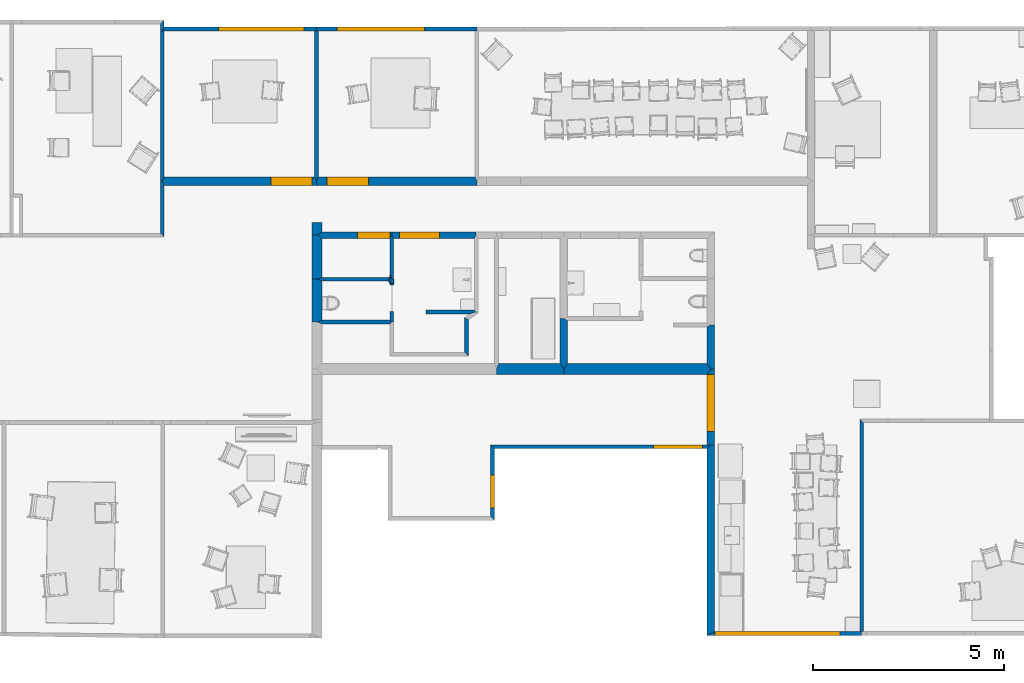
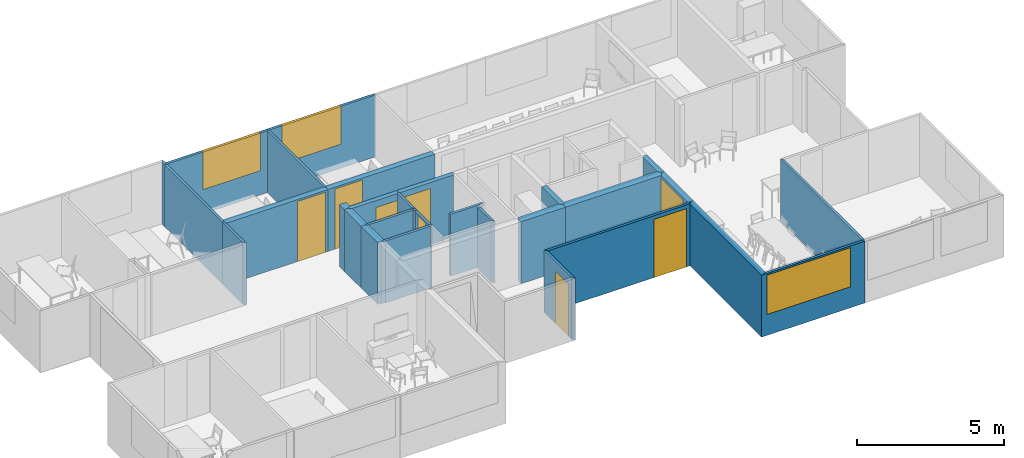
# One storey, part 3 of 26: 31 walls, 7 doors, 3 windows, 11 openings.
"""IFC2X3 building model written with IfcOpenShell, lengths in metres."""

from ifc_helpers import new_model, si_unit, direction, frame, origin_with_axes, place, context, subcontext, project, spatial, polyline, outline, extrude, type_object, element, fill, save


model = new_model("IFC2X3")

# Units and contexts
model_context = context("Model", 3, precision=1e-05, world=origin_with_axes(), true_north=direction((0.996, -0.093, 0.0)))
body_context = subcontext(model_context, "Body", "Model", "MODEL_VIEW")
ifc_project = project(units=[si_unit("AREAUNIT", "SQUARE_METRE"), si_unit("LENGTHUNIT", "METRE")], contexts=[model_context])

# Site, building, storey
site_placement = place(None, origin_with_axes())
site = spatial("IfcSite", under=ifc_project, at=site_placement, Name="Site", CompositionType="ELEMENT")
building_placement = place(site_placement, origin_with_axes())
building = spatial("IfcBuilding", under=site, at=building_placement, Name="Building", CompositionType="ELEMENT")
storey_placement = place(building_placement, frame((0.0, 0.0, 0.0500001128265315), z_axis=(0.0, 0.0, 1.0), x_axis=(1.0, 0.0, 0.0)))
storey = spatial("IfcBuildingStorey", under=building, at=storey_placement, Name="Story 0", CompositionType="ELEMENT", Elevation=0.0499999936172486)

# Wall, opening, window
wall_type_1 = type_object("IfcWallType", PredefinedType="STANDARD")
wall_1_placement = place(storey_placement, frame((6.05685358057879, 11.0852164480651, 0.0), z_axis=(0.0, 0.0, 1.0), x_axis=(1.0, 0.0, 0.0)))
wall_1 = element("IfcWallStandardCase", 1, at=wall_1_placement, inside=storey, type_object=wall_type_1, Name="Wall", context=body_context, shape_type="SweptSolid", body=[
    extrude(outline(polyline([(0.0, 0.0), (-0.0463823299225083, -1.50883678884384e-08), (0.000229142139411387, 0.0999999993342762), (3.99570325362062, 0.100001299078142), (3.99570328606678, 1.29981840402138e-06), (3.94932095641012, 1.28473004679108e-06), (0.0, 0.0)])), origin_with_axes(), (0.0, 0.0, 1.0), 2.5729394),
])
opening_1_placement = place(wall_1_placement, frame((1.42447395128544, 0.0, 1.01125042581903), z_axis=(0.0, 0.0, 1.0), x_axis=(1.00000000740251, 0.0, 0.0)))
opening_1 = element("IfcOpeningElement", 2, at=opening_1_placement, cuts=wall_1, Name="OpeningElement", ObjectType="OPENING", context=body_context, shape_type="SweptSolid", body=[
    extrude(outline(polyline([(-8.88178419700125e-16, 0.0), (2.2489290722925, 0.0), (2.2489290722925, 1.561688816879), (-8.88178419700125e-16, 1.561688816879), (-8.88178419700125e-16, 0.0)])), frame((0.0, 0.0, 0.0), z_axis=(0.0, -1.0, 0.0), x_axis=(1.0, 0.0, 0.0)), (0.0, 0.0, -1.0), 0.100099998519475),
])
window_style_1 = type_object("IfcWindowStyle", Name="2ed6ac4e-18b1-4cff-920f-c6e0926f687a", ConstructionType="ALUMINIUM", OperationType="SINGLE_PANEL", ParameterTakesPrecedence=True, Sizeable=True)
window_1_placement = place(opening_1_placement, origin_with_axes())
window_1 = element("IfcWindow", 3, at=window_1_placement, inside=storey, type_object=window_style_1, Name="Window", OverallHeight=1.5, OverallWidth=0.5, context=body_context, shape_type="SweptSolid", body=[
    extrude(outline(polyline([(0.0, 0.0), (-2.24892893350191, 0.0), (-2.24892893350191, 1.56168884), (0.0, 1.56168884), (0.0, 0.0)])), frame((0.0, 0.0999999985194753, 0.0), z_axis=(0.0, 1.0, 0.0), x_axis=(-1.0, 0.0, 0.0)), (0.0, 0.0, -1.0), 0.0999999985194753),
])
fill(opening_1, window_1)

# Wall, opening, door
wall_type_2 = type_object("IfcWallType", PredefinedType="STANDARD")
wall_2_placement = place(storey_placement, frame((6.05727693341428, 7.0292834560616, 0.0), z_axis=(0.0, 0.0, 1.0), x_axis=(1.0, 0.0, 0.0)))
wall_2 = element("IfcWallStandardCase", 4, at=wall_2_placement, inside=storey, type_object=wall_type_2, Name="Wall", context=body_context, shape_type="SweptSolid", body=[
    extrude(outline(polyline([(0.0, 0.0), (-0.0463823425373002, 0.114025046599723), (-1.22583095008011e-05, 0.228050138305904), (3.94889842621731, 0.228052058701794), (3.99528078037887, 0.11402701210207), (3.99528083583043, 1.94294616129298e-06), (0.0, 0.0)])), origin_with_axes(), (0.0, 0.0, 1.0), 2.5729394),
])
opening_2_placement = place(wall_2_placement, frame((2.79951417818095, 0.0, 0.0), z_axis=(0.0, 0.0, 1.0), x_axis=(1.00000000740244, 0.0, 0.0)))
opening_2 = element("IfcOpeningElement", 5, at=opening_2_placement, cuts=wall_2, Name="OpeningElement", ObjectType="OPENING", context=body_context, shape_type="SweptSolid", body=[
    extrude(outline(polyline([(0.0, 0.0), (1.08285570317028, 0.0), (1.08285570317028, 2.49675690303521), (0.0, 2.49675690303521), (0.0, 0.0)])), frame((0.0, 0.0, 0.0), z_axis=(0.0, -1.0, 0.0), x_axis=(1.0, 0.0, 0.0)), (0.0, 0.0, -1.0), 0.228150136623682),
])
door_style_1 = type_object("IfcDoorStyle", Name="8c283b40-867c-4ef0-b89c-eb052e4bcd9b", ConstructionType="NOTDEFINED", OperationType="NOTDEFINED", ParameterTakesPrecedence=False, Sizeable=False)
door_1_placement = place(opening_2_placement, origin_with_axes())
door_1 = element("IfcDoor", 6, at=door_1_placement, inside=storey, type_object=door_style_1, Name="Door", OverallHeight=2.49675694, OverallWidth=1.0828566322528, context=body_context, shape_type="SweptSolid", body=[
    extrude(outline(polyline([(-1.77635683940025e-15, 0.0), (-1.08285564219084, 0.0), (-1.08285564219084, 2.49675694), (-1.77635683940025e-15, 2.49675694), (-1.77635683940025e-15, 0.0)])), frame((0.0, 0.228050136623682, 0.0), z_axis=(0.0, 1.0, 0.0), x_axis=(-1.0, 0.0, 0.0)), (0.0, 0.0, -1.0), 0.228050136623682),
])
fill(opening_2, door_1)

# Walls
wall_type_3 = type_object("IfcWallType", PredefinedType="STANDARD")
wall_3_placement = place(storey_placement, frame((10.0061745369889, 11.0852177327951, 0.0), z_axis=(0.0, 0.0, 1.0), x_axis=(1.0, 0.0, 0.0)))
element("IfcWallStandardCase", 7, at=wall_3_placement, inside=storey, type_object=wall_type_3, Name="Wall", context=body_context, shape_type="SweptSolid", body=[
    extrude(outline(polyline([(0.0, 0.0), (0.0463823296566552, 1.50883572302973e-08), (0.0927646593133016, 3.073068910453e-08), (0.0927654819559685, -3.82788218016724), (0.0463831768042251, -3.94190726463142), (8.22642672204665e-07, -3.8278822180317), (0.0, 0.0)])), origin_with_axes(), (0.0, 0.0, 1.0), 2.5729394),
])
wall_type_4 = type_object("IfcWallType", PredefinedType="STANDARD")
wall_4_placement = place(storey_placement, frame((5.96408892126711, 11.085211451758, 0.0), z_axis=(0.0, 0.0, 1.0), x_axis=(1.0, 0.0, 0.0)))
element("IfcWallStandardCase", 8, at=wall_4_placement, inside=storey, type_object=wall_type_4, Name="Wall", context=body_context, shape_type="SweptSolid", body=[
    extrude(outline(polyline([(0.0, 0.0), (0.046382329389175, 4.98121871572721e-06), (0.0927646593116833, 4.99630708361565e-06), (0.0931757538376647, -3.82787785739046), (0.0468056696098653, -3.94190294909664), (0.000423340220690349, -3.94190793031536), (0.0, 0.0)])), origin_with_axes(), (0.0, 0.0, 1.0), 2.5729394),
])
wall_type_5 = type_object("IfcWallType", PredefinedType="STANDARD")
wall_5_placement = place(storey_placement, frame((16.437954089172, 2.3638263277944, 0.0), z_axis=(0.0, 0.0, 1.0), x_axis=(1.0, 0.0, 0.0)))
element("IfcWallStandardCase", 9, at=wall_5_placement, inside=storey, type_object=wall_type_5, Name="Wall", context=body_context, shape_type="SweptSolid", body=[
    extrude(outline(polyline([(0.0, 0.0), (-1.85461018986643e-07, 1.17787432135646), (0.0988194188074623, 1.177874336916), (0.197639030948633, 1.12787441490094), (0.19763920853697, 4.21498862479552e-08), (0.0988196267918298, -0.143047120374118), (0.0, 0.0)])), origin_with_axes(), (0.0, 0.0, 1.0), 2.5729394),
])
wall_type_6 = type_object("IfcWallType", PredefinedType="STANDARD")
wall_6_placement = place(storey_placement, frame((20.2917809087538, 2.36382724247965, 0.0), z_axis=(0.0, 0.0, 1.0), x_axis=(1.0, 0.0, 0.0)))
element("IfcWallStandardCase", 10, at=wall_6_placement, inside=storey, type_object=wall_type_6, Name="Wall", context=body_context, shape_type="SweptSolid", body=[
    extrude(outline(polyline([(0.0, 0.0), (-4.13447462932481e-07, 0.962574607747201), (0.101290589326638, 1.01257452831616), (0.202581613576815, 1.01257457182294), (0.202582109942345, -0.143047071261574), (0.101291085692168, -0.14304711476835), (0.0, 0.0)])), origin_with_axes(), (0.0, 0.0, 1.0), 2.5729394),
])
wall_type_7 = type_object("IfcWallType", PredefinedType="STANDARD")
wall_7_placement = place(storey_placement, frame((16.5367737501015, 2.0777320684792, 0.0), z_axis=(0.0, 0.0, 1.0), x_axis=(1.0, 0.0, 0.0)))
element("IfcWallStandardCase", 11, at=wall_7_placement, inside=storey, type_object=wall_type_7, Name="Wall", context=body_context, shape_type="SweptSolid", body=[
    extrude(outline(polyline([(0.0, 0.0), (-3.41376562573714e-08, 0.14304713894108), (0.0988195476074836, 0.286094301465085), (3.75500715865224, 0.286095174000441), (3.8562982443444, 0.143048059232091), (3.7550072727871, 8.96118290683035e-07), (0.0, 0.0)])), origin_with_axes(), (0.0, 0.0, 1.0), 2.5729394),
])

# Wall, opening, door
wall_type_8 = type_object("IfcWallType", PredefinedType="STANDARD")
wall_8_placement = place(storey_placement, frame((10.2028890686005, 5.6405609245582, 0.0), z_axis=(0.0, 0.0, 1.0), x_axis=(1.0, 0.0, 0.0)))
wall_8 = element("IfcWallStandardCase", 12, at=wall_8_placement, inside=storey, type_object=wall_type_8, Name="Wall", context=body_context, shape_type="SweptSolid", body=[
    extrude(outline(polyline([(0.0, 0.0), (-0.133709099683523, 0.0883233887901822), (-1.25883463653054e-08, 0.176646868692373), (1.82463396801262, 0.176647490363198), (1.82463399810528, 0.0883240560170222), (1.77825168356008, 6.0586792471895e-07), (0.0, 0.0)])), origin_with_axes(), (0.0, 0.0, 1.0), 2.5729394),
])
opening_3_placement = place(wall_8_placement, frame((1.77825162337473, 0.176647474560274, 0.0), z_axis=(0.0, 0.0, 1.0), x_axis=(-1.0000000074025, 0.0, 0.0)))
opening_3 = element("IfcOpeningElement", 13, at=opening_3_placement, cuts=wall_8, Name="OpeningElement", ObjectType="OPENING", context=body_context, shape_type="SweptSolid", body=[
    extrude(outline(polyline([(0.0, 0.0), (0.856390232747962, 0.0), (0.856390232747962, 2.28598296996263), (0.0, 2.28598296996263), (0.0, 0.0)])), frame((0.0, 0.0, 0.0), z_axis=(0.0, -1.0, 0.0), x_axis=(1.0, 0.0, 0.0)), (0.0, 0.0, -1.0), 0.176746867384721),
])
door_style_2 = type_object("IfcDoorStyle", Name="65016129-876d-4786-bd2c-ccfc2ccc8a95", ConstructionType="NOTDEFINED", OperationType="NOTDEFINED", ParameterTakesPrecedence=False, Sizeable=False)
door_2_placement = place(opening_3_placement, origin_with_axes())
door_2 = element("IfcDoor", 14, at=door_2_placement, inside=storey, type_object=door_style_2, Name="Door", OverallHeight=2.28598364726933, OverallWidth=0.902772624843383, context=body_context, shape_type="SweptSolid", body=[
    extrude(outline(polyline([(0.0, 0.0), (-0.856390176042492, 0.0), (-0.856390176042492, 2.28598300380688), (0.0, 2.28598300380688), (0.0, 0.0)])), frame((0.0, 0.176646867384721, 0.0), z_axis=(0.0, 1.0, 0.0), x_axis=(-1.0, 0.0, 0.0)), (0.0, 0.0, -1.0), 0.176646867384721),
])
fill(opening_3, door_2)

# Wall, opening, window
wall_type_9 = type_object("IfcWallType", PredefinedType="STANDARD")
wall_9_placement = place(storey_placement, frame((20.2917828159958, -4.76651428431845, 0.0), z_axis=(0.0, 0.0, 1.0), x_axis=(1.0, 0.0, 0.0)))
wall_9 = element("IfcWallStandardCase", 15, at=wall_9_placement, inside=storey, type_object=wall_type_9, Name="Wall", context=body_context, shape_type="SweptSolid", body=[
    extrude(outline(polyline([(0.0, 0.0), (0.202582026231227, 0.100000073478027), (4.00875737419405, 0.100001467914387), (4.05513970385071, 0.100001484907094), (4.05513973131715, 1.48564735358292e-06), (0.0, 0.0)])), origin_with_axes(), (0.0, 0.0, 1.0), 2.5729394),
])
opening_4_placement = place(wall_9_placement, frame((3.49161362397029, 0.10000127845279, 0.872057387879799), z_axis=(0.0, 0.0, 1.0), x_axis=(-1.00000000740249, 0.0, 0.0)))
opening_4 = element("IfcOpeningElement", 16, at=opening_4_placement, cuts=wall_9, Name="OpeningElement", ObjectType="OPENING", context=body_context, shape_type="SweptSolid", body=[
    extrude(outline(polyline([(0.0, 0.0), (3.27666135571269, 0.0), (3.27666135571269, 1.63146417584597), (0.0, 1.63146417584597), (0.0, 0.0)])), frame((0.0, 0.0, 0.0), z_axis=(0.0, -1.0, 0.0), x_axis=(1.0, 0.0, 0.0)), (0.0, 0.0, -1.0), 0.100099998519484),
])
window_style_2 = type_object("IfcWindowStyle", Name="49b55e48-f6dc-40c0-af08-7e19540d40da", ConstructionType="ALUMINIUM", OperationType="SINGLE_PANEL", ParameterTakesPrecedence=True, Sizeable=True)
window_2_placement = place(opening_4_placement, origin_with_axes())
window_2 = element("IfcWindow", 17, at=window_2_placement, inside=storey, type_object=window_style_2, Name="Window", OverallHeight=1.5, OverallWidth=0.5, context=body_context, shape_type="SweptSolid", body=[
    extrude(outline(polyline([(-3.5527136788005e-15, 0.0), (-3.27666113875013, 0.0), (-3.27666113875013, 1.6314642), (-3.5527136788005e-15, 1.6314642), (-3.5527136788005e-15, 0.0)])), frame((0.0, 0.0999999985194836, 0.0), z_axis=(0.0, 1.0, 0.0), x_axis=(-1.0, 0.0, 0.0)), (0.0, 0.0, -1.0), 0.0999999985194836),
])
fill(opening_4, window_2)

# Wall, opening, door
wall_type_10 = type_object("IfcWallType", PredefinedType="STANDARD")
wall_10_placement = place(storey_placement, frame((20.2917817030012, 0.23140851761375, 0.0), z_axis=(0.0, 0.0, 1.0), x_axis=(1.0, 0.0, 0.0)))
wall_10 = element("IfcWallStandardCase", 18, at=wall_10_placement, inside=storey, type_object=wall_type_10, Name="Wall", context=body_context, shape_type="SweptSolid", body=[
    extrude(outline(polyline([(0.0, 0.0), (-6.80112616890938e-07, 1.84632444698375), (0.101290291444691, 1.98937161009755), (0.202581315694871, 1.98937164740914), (0.202582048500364, 5.59299886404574e-08), (0.10129102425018, 1.86183977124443e-08), (0.0, 0.0)])), origin_with_axes(), (0.0, 0.0, 1.0), 2.5729394),
])
opening_5_placement = place(wall_10_placement, frame((0.202581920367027, 0.347847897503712, 0.0), z_axis=(0.0, 0.0, 1.0), x_axis=(0.0, 1.00000000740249, 0.0)))
opening_5 = element("IfcOpeningElement", 19, at=opening_5_placement, cuts=wall_10, Name="OpeningElement", ObjectType="OPENING", context=body_context, shape_type="SweptSolid", body=[
    extrude(outline(polyline([(-2.32019264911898e-17, 0.0), (1.49847635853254, 0.0), (1.49847635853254, 2.44500200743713), (-2.32019264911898e-17, 2.44500200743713), (-2.32019264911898e-17, 0.0)])), frame((0.0, 0.0, 0.0), z_axis=(0.0, -1.0, 0.0), x_axis=(1.0, 0.0, 0.0)), (0.0, 0.0, -1.0), 0.202682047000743),
])
door_style_3 = type_object("IfcDoorStyle", Name="be08ee88-b715-41a8-818c-6e9878d72d4e", ConstructionType="NOTDEFINED", OperationType="NOTDEFINED", ParameterTakesPrecedence=False, Sizeable=False)
door_3_placement = place(opening_5_placement, origin_with_axes())
door_3 = element("IfcDoor", 20, at=door_3_placement, inside=storey, type_object=door_style_3, Name="Door", OverallHeight=2.44500273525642, OverallWidth=1.5762143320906, context=body_context, shape_type="SweptSolid", body=[
    extrude(outline(polyline([(-1.17059953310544e-18, 0.0), (-1.49847625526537, 0.0), (-1.49847625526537, 2.44500204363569), (-1.17059953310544e-18, 2.44500204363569), (-1.17059953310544e-18, 0.0)])), frame((0.0, 0.202582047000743, 0.0), z_axis=(0.0, 1.0, 0.0), x_axis=(-1.0, 0.0, 0.0)), (0.0, 0.0, -1.0), 0.202582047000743),
])
fill(opening_5, door_3)

# Walls
wall_type_11 = type_object("IfcWallType", PredefinedType="STANDARD")
wall_11_placement = place(storey_placement, frame((9.93547186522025, 4.57248068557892, 0.0), z_axis=(0.0, 0.0, 1.0), x_axis=(1.0, 0.0, 0.0)))
element("IfcWallStandardCase", 21, at=wall_11_placement, inside=storey, type_object=wall_type_11, Name="Wall", context=body_context, shape_type="SweptSolid", body=[
    extrude(outline(polyline([(0.0, 0.0), (-9.25313425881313e-07, 1.15640352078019), (0.133708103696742, 1.15640362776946), (0.267417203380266, 1.06808023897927), (0.267418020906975, 0.0463823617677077), (0.133709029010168, 1.06989263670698e-07), (0.0, 0.0)])), origin_with_axes(), (0.0, 0.0, 1.0), 2.5729394),
])
wall_type_12 = type_object("IfcWallType", PredefinedType="STANDARD")
wall_12_placement = place(storey_placement, frame((9.93547093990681, 5.72888440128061, 0.0), z_axis=(0.0, 0.0, 1.0), x_axis=(1.0, 0.0, 0.0)))
element("IfcWallStandardCase", 22, at=wall_12_placement, inside=storey, type_object=wall_type_12, Name="Wall", context=body_context, shape_type="SweptSolid", body=[
    extrude(outline(polyline([(0.0, 0.0), (2.18148651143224e-07, 0.33171505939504), (0.267418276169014, 0.331714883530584), (0.267418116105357, 0.0883233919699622), (0.133709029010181, -8.79322286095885e-08), (0.0, 0.0)])), origin_with_axes(), (0.0, 0.0, 1.0), 2.5729394),
])
wall_type_13 = type_object("IfcWallType", PredefinedType="STANDARD")
wall_13_placement = place(storey_placement, frame((5.96451226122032, 7.14330849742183, 0.0), z_axis=(0.0, 0.0, 1.0), x_axis=(1.0, 0.0, 0.0)))
element("IfcWallStandardCase", 23, at=wall_13_placement, inside=storey, type_object=wall_type_13, Name="Wall", context=body_context, shape_type="SweptSolid", body=[
    extrude(outline(polyline([(0.0, 0.0), (0.0463823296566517, 5.23950216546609e-09), (0.0927646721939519, -0.114025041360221), (0.0927648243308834, -1.46080685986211), (1.54538575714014e-07, -1.36804221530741), (0.0, 0.0)])), origin_with_axes(), (0.0, 0.0, 1.0), 2.5729394),
])
wall_type_14 = type_object("IfcWallType", PredefinedType="STANDARD")
wall_14_placement = place(storey_placement, frame((9.93547177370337, 3.44895672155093, 0.0), z_axis=(0.0, 0.0, 1.0), x_axis=(1.0, 0.0, 0.0)))
element("IfcWallStandardCase", 24, at=wall_14_placement, inside=storey, type_object=wall_type_14, Name="Wall", context=body_context, shape_type="SweptSolid", body=[
    extrude(outline(polyline([(0.0, 0.0), (9.15168385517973e-08, 1.12352408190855), (0.133709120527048, 1.12352407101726), (0.267418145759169, 1.07714166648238), (0.267418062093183, 0.0500000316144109), (0.133709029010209, -1.0891290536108e-08), (0.0, 0.0)])), origin_with_axes(), (0.0, 0.0, 1.0), 2.5729394),
])
wall_type_15 = type_object("IfcWallType", PredefinedType="STANDARD")
wall_15_placement = place(storey_placement, frame((24.300540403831, 0.904042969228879, 0.0), z_axis=(0.0, 0.0, 1.0), x_axis=(1.0, 0.0, 0.0)))
element("IfcWallStandardCase", 25, at=wall_15_placement, inside=storey, type_object=wall_type_15, Name="Wall", context=body_context, shape_type="SweptSolid", body=[
    extrude(outline(polyline([(0.0, 0.0), (0.0927646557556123, -0.0927646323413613), (0.0927644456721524, -5.57055575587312), (0.0463821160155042, -5.57055576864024), (-2.13641150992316e-07, -5.57055578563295), (0.0, 0.0)])), origin_with_axes(), (0.0, 0.0, 1.0), 2.5729394),
])

# Wall, opening, door
wall_type_16 = type_object("IfcWallType", PredefinedType="STANDARD")
wall_16_placement = place(storey_placement, frame((12.0739054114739, 5.64056155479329, 0.0), z_axis=(0.0, 0.0, 1.0), x_axis=(1.0, 0.0, 0.0)))
wall_16 = element("IfcWallStandardCase", 26, at=wall_16_placement, inside=storey, type_object=wall_type_16, Name="Wall", context=body_context, shape_type="SweptSolid", body=[
    extrude(outline(polyline([(0.0, 0.0), (-0.046382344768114, 0.0883234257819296), (-0.046382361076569, 0.176646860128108), (2.16509380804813, 0.176647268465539), (2.16509382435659, 0.0883238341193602), (2.11509386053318, 3.90540941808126e-07), (0.0, 0.0)])), origin_with_axes(), (0.0, 0.0, 1.0), 2.5729394),
])
opening_6_placement = place(wall_16_placement, frame((1.20209447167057, 0.17664709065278, 0.0), z_axis=(0.0, 0.0, 1.0), x_axis=(-1.00000000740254, 0.0, 0.0)))
opening_6 = element("IfcOpeningElement", 27, at=opening_6_placement, cuts=wall_16, Name="OpeningElement", ObjectType="OPENING", context=body_context, shape_type="SweptSolid", body=[
    extrude(outline(polyline([(0.0, 0.0), (1.05191887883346, 0.0), (1.05191887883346, 2.32814514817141), (0.0, 2.32814514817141), (0.0, 0.0)])), frame((0.0, 0.0, 0.0), z_axis=(0.0, -1.0, 0.0), x_axis=(1.0, 0.0, 0.0)), (0.0, 0.0, -1.0), 0.176746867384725),
])
door_style_4 = type_object("IfcDoorStyle", Name="c0042f84-d375-4604-b68c-7bd32cc742e0", ConstructionType="NOTDEFINED", OperationType="NOTDEFINED", ParameterTakesPrecedence=False, Sizeable=False)
door_4_placement = place(opening_6_placement, origin_with_axes())
door_4 = element("IfcDoor", 28, at=door_4_placement, inside=storey, type_object=door_style_4, Name="Door", OverallHeight=2.32814583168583, OverallWidth=1.05191907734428, context=body_context, shape_type="SweptSolid", body=[
    extrude(outline(polyline([(0.0, 0.0), (-1.05191880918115, 0.0), (-1.05191880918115, 2.32814518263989), (0.0, 2.32814518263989), (0.0, 0.0)])), frame((0.0, 0.176646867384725, 0.0), z_axis=(0.0, 1.0, 0.0), x_axis=(-1.0, 0.0, 0.0)), (0.0, 0.0, -1.0), 0.176646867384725),
])
fill(opening_6, door_4)

wall_type_17 = type_object("IfcWallType", PredefinedType="STANDARD")
wall_17_placement = place(storey_placement, frame((10.0525577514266, 7.02928539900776, 0.0), z_axis=(0.0, 0.0, 1.0), x_axis=(1.0, 0.0, 0.0)))
wall_17 = element("IfcWallStandardCase", 29, at=wall_17_placement, inside=storey, type_object=wall_type_17, Name="Wall", context=body_context, shape_type="SweptSolid", body=[
    extrude(outline(polyline([(0.0, 0.0), (-3.76334217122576e-08, 0.114025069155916), (0.0463822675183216, 0.228050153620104), (4.1591067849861, 0.228051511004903), (4.2054891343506, 0.114026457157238), (4.20548917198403, 1.38800132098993e-06), (0.0, 0.0)])), origin_with_axes(), (0.0, 0.0, 1.0), 2.5729394),
])
opening_7_placement = place(wall_17_placement, frame((0.273498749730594, 0.0, 0.0), z_axis=(0.0, 0.0, 1.0), x_axis=(1.00000000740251, 0.0, 0.0)))
opening_7 = element("IfcOpeningElement", 30, at=opening_7_placement, cuts=wall_17, Name="OpeningElement", ObjectType="OPENING", context=body_context, shape_type="SweptSolid", body=[
    extrude(outline(polyline([(1.77635683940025e-15, 0.0), (1.08608885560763, 0.0), (1.08608885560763, 2.49794977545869), (1.77635683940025e-15, 2.49794977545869), (1.77635683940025e-15, 0.0)])), frame((0.0, 0.0, 0.0), z_axis=(0.0, -1.0, 0.0), x_axis=(1.0, 0.0, 0.0)), (0.0, 0.0, -1.0), 0.228150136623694),
])
door_style_5 = type_object("IfcDoorStyle", Name="a93a2433-274b-495e-a07f-7ddb89997577", ConstructionType="NOTDEFINED", OperationType="NOTDEFINED", ParameterTakesPrecedence=False, Sizeable=False)
door_5_placement = place(opening_7_placement, origin_with_axes())
door_5 = element("IfcDoor", 31, at=door_5_placement, inside=storey, type_object=door_style_5, Name="Door", OverallHeight=2.49795038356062, OverallWidth=1.08608894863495, context=body_context, shape_type="SweptSolid", body=[
    extrude(outline(polyline([(-1.77635683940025e-15, 0.0), (-1.08608879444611, 0.0), (-1.08608879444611, 2.49794981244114), (-1.77635683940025e-15, 2.49794981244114), (-1.77635683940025e-15, 0.0)])), frame((0.0, 0.228050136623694, 0.0), z_axis=(0.0, 1.0, 0.0), x_axis=(-1.0, 0.0, 0.0)), (0.0, 0.0, -1.0), 0.228050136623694),
])
fill(opening_7, door_5)

# Walls
wall_type_18 = type_object("IfcWallType", PredefinedType="STANDARD")
wall_18_placement = place(storey_placement, frame((20.2917817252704, 0.131408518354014, 0.0), z_axis=(0.0, 0.0, 1.0), x_axis=(1.0, 0.0, 0.0)))
element("IfcWallStandardCase", 32, at=wall_18_placement, inside=storey, type_object=wall_type_18, Name="Wall", context=body_context, shape_type="SweptSolid", body=[
    extrude(outline(polyline([(0.0, 0.0), (0.101291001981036, 0.100000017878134), (0.202582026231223, 0.100000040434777), (0.202583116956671, -4.79792272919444), (1.09072544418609e-06, -4.89792280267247), (0.0, 0.0)])), origin_with_axes(), (0.0, 0.0, 1.0), 2.5729394),
])
wall_type_19 = type_object("IfcWallType", PredefinedType="STANDARD")
wall_19_placement = place(storey_placement, frame((14.7754880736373, 2.07773173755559, 0.0), z_axis=(0.0, 0.0, 1.0), x_axis=(1.0, 0.0, 0.0)))
element("IfcWallStandardCase", 33, at=wall_19_placement, inside=storey, type_object=wall_type_19, Name="Wall", context=body_context, shape_type="SweptSolid", body=[
    extrude(outline(polyline([(0.0, 0.0), (-2.6876774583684e-08, 0.143047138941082), (0.0499999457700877, 0.28609428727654), (1.66246601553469, 0.286094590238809), (1.76128564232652, 0.14304746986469), (1.76128566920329, 3.30923608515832e-07), (0.0, 0.0)])), origin_with_axes(), (0.0, 0.0, 1.0), 2.5729394),
])
wall_type_20 = type_object("IfcWallType", PredefinedType="STANDARD")
wall_20_placement = place(storey_placement, frame((11.9811408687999, 4.5260973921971, 0.0), z_axis=(0.0, 0.0, 1.0), x_axis=(1.0, 0.0, 0.0)))
element("IfcWallStandardCase", 34, at=wall_20_placement, inside=storey, type_object=wall_type_20, Name="Wall", context=body_context, shape_type="SweptSolid", body=[
    extrude(outline(polyline([(0.0, 0.0), (2.4455681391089e-07, 0.171602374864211), (0.0463823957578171, 0.04638230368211), (0.0927647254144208, 0.0463822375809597), (0.092764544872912, -0.0803014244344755), (0.0463822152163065, -0.0803013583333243), (0.0, 0.0)])), origin_with_axes(), (0.0, 0.0, 1.0), 2.5729394),
])
wall_type_21 = type_object("IfcWallType", PredefinedType="STANDARD")
wall_21_placement = place(storey_placement, frame((11.9811407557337, 4.42712188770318, 0.0), z_axis=(0.0, 0.0, 1.0), x_axis=(1.0, 0.0, 0.0)))
element("IfcWallStandardCase", 35, at=wall_21_placement, inside=storey, type_object=wall_type_21, Name="Wall", context=body_context, shape_type="SweptSolid", body=[
    extrude(outline(polyline([(0.0, 0.0), (-0.044263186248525, 0.111287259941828), (3.57623010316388e-07, 0.270577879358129), (0.0486567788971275, 0.148245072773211), (0.0463823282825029, 0.0186741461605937), (0.0, 0.0)])), origin_with_axes(), (0.0, 0.0, 1.0), 2.5729394),
])
wall_type_22 = type_object("IfcWallType", PredefinedType="STANDARD")
wall_22_placement = place(storey_placement, frame((10.2028899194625, 4.5260983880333, 0.0), z_axis=(0.0, 0.0, 1.0), x_axis=(1.0, 0.0, 0.0)))
element("IfcWallStandardCase", 36, at=wall_22_placement, inside=storey, type_object=wall_type_22, Name="Wall", context=body_context, shape_type="SweptSolid", body=[
    extrude(outline(polyline([(0.0, 0.0), (-0.133709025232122, 0.046382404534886), (-3.33353149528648e-08, 0.09276465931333), (1.77825100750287, 0.092763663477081), (1.82463334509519, 0.0463813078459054), (1.77825094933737, -9.95836204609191e-07), (0.0, 0.0)])), origin_with_axes(), (0.0, 0.0, 1.0), 2.5729394),
])
wall_type_23 = type_object("IfcWallType", PredefinedType="STANDARD")
wall_23_placement = place(storey_placement, frame((10.2028898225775, 3.39895675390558, 0.0), z_axis=(0.0, 0.0, 1.0), x_axis=(1.0, 0.0, 0.0)))
element("IfcWallStandardCase", 37, at=wall_23_placement, inside=storey, type_object=wall_type_23, Name="Wall", context=body_context, shape_type="SweptSolid", body=[
    extrude(outline(polyline([(0.0, 0.0), (-0.133709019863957, 0.049999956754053), (1.32190169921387e-08, 0.0999999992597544), (1.77825100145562, 0.100000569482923), (1.82463333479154, 0.0500005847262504), (1.77825102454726, 5.70223186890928e-07), (0.0, 0.0)])), origin_with_axes(), (0.0, 0.0, 1.0), 2.5729394),
])

# Wall, opening
wall_type_24 = type_object("IfcWallType", PredefinedType="STANDARD")
wall_24_placement = place(storey_placement, frame((11.9811408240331, 3.4989573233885, 0.0), z_axis=(0.0, 0.0, 1.0), x_axis=(1.0, 0.0, 0.0)))
wall_24 = element("IfcWallStandardCase", 38, at=wall_24_placement, inside=storey, type_object=wall_type_24, Name="Wall", context=body_context, shape_type="SweptSolid", body=[
    extrude(outline(polyline([(0.0, 0.0), (-6.82994372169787e-08, 0.928164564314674), (0.0463822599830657, 0.946838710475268), (0.0927645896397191, 0.946838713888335), (0.0927646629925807, -0.0499999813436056), (0.046382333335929, -0.0499999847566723), (0.0, 0.0)])), origin_with_axes(), (0.0, 0.0, 1.0), 2.5729394),
])
opening_8_placement = place(wall_24_placement, frame((0.0927646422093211, 0.232436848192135, 0.0), z_axis=(0.0, 0.0, 1.0), x_axis=(0.0, 1.00000000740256, 0.0)))
element("IfcOpeningElement", 39, at=opening_8_placement, cuts=wall_24, Name="OpeningElement", ObjectType="OPENING", context=body_context, shape_type="SweptSolid", body=[
    extrude(outline(polyline([(9.51162942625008e-17, 0.0), (0.685867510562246, 0.0), (0.685867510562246, 2.49261293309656), (9.51162942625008e-17, 2.49261293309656), (9.51162942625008e-17, 0.0)])), frame((0.0, 0.0, 0.0), z_axis=(0.0, -1.0, 0.0), x_axis=(1.0, 0.0, 0.0)), (0.0, 0.0, -1.0), 0.0928646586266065),
])

# Walls
wall_type_25 = type_object("IfcWallType", PredefinedType="STANDARD")
wall_25_placement = place(storey_placement, frame((11.9811409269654, 4.61886205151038, 0.0), z_axis=(0.0, 0.0, 1.0), x_axis=(1.0, 0.0, 0.0)))
element("IfcWallStandardCase", 40, at=wall_25_placement, inside=storey, type_object=wall_type_25, Name="Wall", context=body_context, shape_type="SweptSolid", body=[
    extrude(outline(polyline([(0.0, 0.0), (-1.74804821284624e-07, 1.02169947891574), (0.0463821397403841, 1.11002292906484), (0.0927644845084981, 1.02169950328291), (0.0927646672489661, -0.0463823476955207), (0.0463823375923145, -0.0463823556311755), (0.0, 0.0)])), origin_with_axes(), (0.0, 0.0, 1.0), 2.5729394),
])
wall_type_26 = type_object("IfcWallType", PredefinedType="STANDARD")
wall_26_placement = place(storey_placement, frame((5.96408904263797, 11.0853226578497, 0.0), z_axis=(0.0, 0.0, 1.0), x_axis=(1.0, 0.0, 0.0)))
element("IfcWallStandardCase", 41, at=wall_26_placement, inside=storey, type_object=wall_type_26, Name="Wall", context=body_context, shape_type="SweptSolid", body=[
    extrude(outline(polyline([(0.0, 0.0), (0.00042243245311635, 0.184451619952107), (0.0934163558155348, 0.284451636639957), (0.09299368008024, 0.0998937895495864), (0.0463822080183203, -0.00010622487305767), (0.0, 0.0)])), origin_with_axes(), (0.0, 0.0, 1.0), 2.5729394),
])
wall_type_27 = type_object("IfcWallType", PredefinedType="STANDARD")
wall_27_placement = place(storey_placement, frame((13.9366233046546, 2.65763672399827, 0.0), z_axis=(0.0, 0.0, 1.0), x_axis=(1.0, 0.0, 0.0)))
element("IfcWallStandardCase", 42, at=wall_27_placement, inside=storey, type_object=wall_type_27, Name="Wall", context=body_context, shape_type="SweptSolid", body=[
    extrude(outline(polyline([(0.0, 0.0), (8.68419594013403e-07, 0.910058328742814), (0.100000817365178, 0.857331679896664), (0.0999999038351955, -0.0999999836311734), (0.0, 0.0)])), origin_with_axes(), (0.0, 0.0, 1.0), 2.5729394),
])
wall_type_28 = type_object("IfcWallType", PredefinedType="STANDARD")
wall_28_placement = place(storey_placement, frame((12.9254825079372, 3.66412184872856, 0.0), z_axis=(0.0, 0.0, 1.0), x_axis=(1.0, 0.0, 0.0)))
element("IfcWallStandardCase", 43, at=wall_28_placement, inside=storey, type_object=wall_type_28, Name="Wall", context=body_context, shape_type="SweptSolid", body=[
    extrude(outline(polyline([(0.0, 0.0), (-1.5956830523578e-08, 0.0999999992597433), (1.26351752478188, 0.100000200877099), (1.31351754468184, 0.0500002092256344), (1.1519819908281, 1.83819817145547e-07), (0.0, 0.0)])), origin_with_axes(), (0.0, 0.0, 1.0), 2.5729394),
])

# Wall, opening, window
wall_type_29 = type_object("IfcWallType", PredefinedType="STANDARD")
wall_29_placement = place(storey_placement, frame((10.0989391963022, 11.0852177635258, 0.0), z_axis=(0.0, 0.0, 1.0), x_axis=(1.0, 0.0, 0.0)))
wall_29 = element("IfcWallStandardCase", 44, at=wall_29_placement, inside=storey, type_object=wall_type_29, Name="Wall", context=body_context, shape_type="SweptSolid", body=[
    extrude(outline(polyline([(0.0, 0.0), (-0.0463823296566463, -1.56423318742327e-08), (-0.0463823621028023, 0.0999999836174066), (4.1591069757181, 0.10000140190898), (4.15910700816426, 1.40264924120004e-06), (4.11272467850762, 1.38700689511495e-06), (0.0, 0.0)])), origin_with_axes(), (0.0, 0.0, 1.0), 2.5729394),
])
opening_9_placement = place(wall_29_placement, frame((0.48533631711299, 0.0, 1.00195904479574), z_axis=(0.0, 0.0, 1.0), x_axis=(1.0000000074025, 0.0, 0.0)))
opening_9 = element("IfcOpeningElement", 45, at=opening_9_placement, cuts=wall_29, Name="OpeningElement", ObjectType="OPENING", context=body_context, shape_type="SweptSolid", body=[
    extrude(outline(polyline([(1.77635683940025e-15, 0.0), (2.30545496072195, 0.0), (2.30545496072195, 1.57098019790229), (1.77635683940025e-15, 1.57098019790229), (1.77635683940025e-15, 0.0)])), frame((0.0, 0.0, 0.0), z_axis=(0.0, -1.0, 0.0), x_axis=(1.0, 0.0, 0.0)), (0.0, 0.0, -1.0), 0.10009999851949),
])
window_style_3 = type_object("IfcWindowStyle", Name="8c16383f-767e-4034-b839-5ab787c89e2d", ConstructionType="ALUMINIUM", OperationType="SINGLE_PANEL", ParameterTakesPrecedence=True, Sizeable=True)
window_3_placement = place(opening_9_placement, origin_with_axes())
window_3 = element("IfcWindow", 46, at=window_3_placement, inside=storey, type_object=window_style_3, Name="Window", OverallHeight=1.5, OverallWidth=0.5, context=body_context, shape_type="SweptSolid", body=[
    extrude(outline(polyline([(-1.77635683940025e-15, 0.0), (-2.30545481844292, 0.0), (-2.30545481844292, 1.57098022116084), (-1.77635683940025e-15, 1.57098022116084), (-1.77635683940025e-15, 0.0)])), frame((0.0, 0.0999999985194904, 0.0), z_axis=(0.0, 1.0, 0.0), x_axis=(-1.0, 0.0, 0.0)), (0.0, 0.0, -1.0), 0.0999999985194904),
])
fill(opening_9, window_3)

# Wall, opening, door
wall_type_30 = type_object("IfcWallType", PredefinedType="STANDARD")
wall_30_placement = place(storey_placement, frame((14.7181636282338, 0.131407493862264, 0.0), z_axis=(0.0, 0.0, 1.0), x_axis=(1.0, 0.0, 0.0)))
wall_30 = element("IfcWallStandardCase", 47, at=wall_30_placement, inside=storey, type_object=wall_type_30, Name="Wall", context=body_context, shape_type="SweptSolid", body=[
    extrude(outline(polyline([(0.0, 0.0), (-0.100000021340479, 0.0999999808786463), (5.5736180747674, 0.100001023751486), (5.67490909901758, 0.100001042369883), (5.57361809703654, 1.02449174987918e-06), (0.0, 0.0)])), origin_with_axes(), (0.0, 0.0, 1.0), 2.5729394),
])
opening_10_placement = place(wall_30_placement, frame((5.45328541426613, 0.100001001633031, 0.0), z_axis=(0.0, 0.0, 1.0), x_axis=(-1.00000000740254, 0.0, 0.0)))
opening_10 = element("IfcOpeningElement", 48, at=opening_10_placement, cuts=wall_30, Name="OpeningElement", ObjectType="OPENING", context=body_context, shape_type="SweptSolid", body=[
    extrude(outline(polyline([(0.0, 0.0), (1.28055560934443, 0.0), (1.28055560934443, 2.41979582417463), (0.0, 2.41979582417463), (0.0, 0.0)])), frame((0.0, 0.0, 0.0), z_axis=(0.0, -1.0, 0.0), x_axis=(1.0, 0.0, 0.0)), (0.0, 0.0, -1.0), 0.100099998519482),
])
door_style_6 = type_object("IfcDoorStyle", Name="32229aeb-985f-4fd1-a7b6-5e170d0dee5e", ConstructionType="NOTDEFINED", OperationType="NOTDEFINED", ParameterTakesPrecedence=False, Sizeable=False)
door_6_placement = place(opening_10_placement, origin_with_axes())
door_6 = element("IfcDoor", 49, at=door_6_placement, inside=storey, type_object=door_style_6, Name="Door", OverallHeight=2.41979586, OverallWidth=1.28055615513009, context=body_context, shape_type="SweptSolid", body=[
    extrude(outline(polyline([(0.0, 0.0), (-1.2805555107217, 0.0), (-1.2805555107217, 2.41979586), (0.0, 2.41979586), (0.0, 0.0)])), frame((0.0, 0.0999999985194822, 0.0), z_axis=(0.0, 1.0, 0.0), x_axis=(-1.0, 0.0, 0.0)), (0.0, 0.0, -1.0), 0.0999999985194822),
])
fill(opening_10, door_6)

wall_type_31 = type_object("IfcWallType", PredefinedType="STANDARD")
wall_31_placement = place(storey_placement, frame((14.6181636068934, 0.231407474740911, 0.0), z_axis=(0.0, 0.0, 1.0), x_axis=(1.0, 0.0, 0.0)))
wall_31 = element("IfcWallStandardCase", 50, at=wall_31_placement, inside=storey, type_object=wall_type_31, Name="Wall", context=body_context, shape_type="SweptSolid", body=[
    extrude(outline(polyline([(0.0, 0.0), (0.100000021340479, -0.0999999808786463), (0.100000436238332, -1.97900371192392), (4.14897852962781e-07, -1.87900373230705), (0.0, 0.0)])), origin_with_axes(), (0.0, 0.0, 1.0), 2.5729394),
])
opening_11_placement = place(wall_31_placement, frame((0.0, -0.789884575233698, 0.0), z_axis=(0.0, 0.0, 1.0), x_axis=(0.0, -1.00000000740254, 0.0)))
opening_11 = element("IfcOpeningElement", 51, at=opening_11_placement, cuts=wall_31, Name="OpeningElement", ObjectType="OPENING", context=body_context, shape_type="SweptSolid", body=[
    extrude(outline(polyline([(7.56485125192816e-18, 0.0), (0.864453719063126, 0.0), (0.864453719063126, 2.17627710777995), (7.56485125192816e-18, 2.17627710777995), (7.56485125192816e-18, 0.0)])), frame((0.0, 0.0, 0.0), z_axis=(0.0, -1.0, 0.0), x_axis=(1.0, 0.0, 0.0)), (0.0, 0.0, -1.0), 0.100099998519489),
])
door_style_7 = type_object("IfcDoorStyle", Name="be950587-cc21-4c1b-a683-3ab03f2d75f4", ConstructionType="NOTDEFINED", OperationType="NOTDEFINED", ParameterTakesPrecedence=False, Sizeable=False)
door_7_placement = place(opening_11_placement, origin_with_axes())
door_7 = element("IfcDoor", 52, at=door_7_placement, inside=storey, type_object=door_style_7, Name="Door", OverallHeight=2.17627714, OverallWidth=0.864453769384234, context=body_context, shape_type="SweptSolid", body=[
    extrude(outline(polyline([(-2.43801493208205e-17, 0.0), (-0.864453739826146, 0.0), (-0.864453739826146, 2.17627714), (-2.43801493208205e-17, 2.17627714), (-2.43801493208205e-17, 0.0)])), frame((0.0, 0.0999999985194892, 0.0), z_axis=(0.0, 1.0, 0.0), x_axis=(-1.0, 0.0, 0.0)), (0.0, 0.0, -1.0), 0.0999999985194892),
])
fill(opening_11, door_7)

save(model, "model.ifc")
